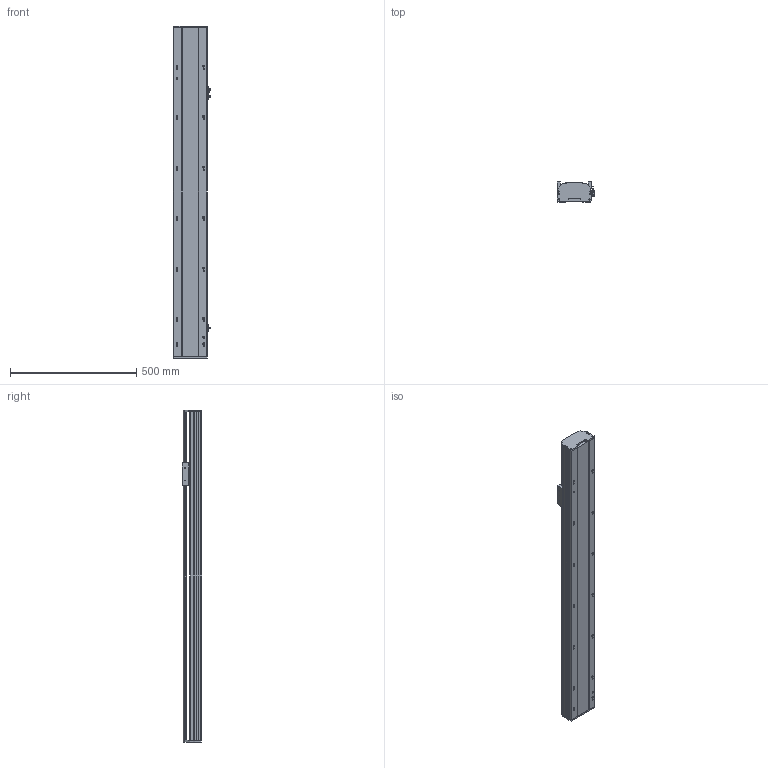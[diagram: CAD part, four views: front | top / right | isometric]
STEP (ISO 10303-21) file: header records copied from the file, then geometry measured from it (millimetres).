
FILE_DESCRIPTION (( 'STEP AP214' ), '1' );
FILE_NAME ('QTH13-950-M-P40.STEP', '2022-05-24T09:35:38', ( '' ), ( '' ), 'SwSTEP 2.0', 'SolidWorks 2020', '' );
FILE_SCHEMA (( 'AUTOMOTIVE_DESIGN' ));
Length unit declared in the file: millimetre
Products named in the file (5): QTH13-950-M-P40; 葩璃 QTH13-M-001 菁釱MZ-135-01^QTH13-M-P40; 葩璃 QTH13-BC-005 賑釱MZ-135-03^QTH13-M-P40_SFA16; 葩璃 QTH13-M-002 奻裔MZ-135-02^QTH13-M-P40; 葩璃 pm-t65-672^QTH13-M-P40
Assembly tree (6 placements, depth 2):
  QTH13-950-M-P40
    葩璃 QTH13-M-001 菁釱MZ-135-01^QTH13-M-P40
    葩璃 QTH13-M-002 奻裔MZ-135-02^QTH13-M-P40
    葩璃 QTH13-BC-005 賑釱MZ-135-03^QTH13-M-P40_SFA16
    葩璃 pm-t65-672^QTH13-M-P40  x3
Bounding box: 148.7 x 78 x 1315 mm (x, y, z)
Volume: 9069416.3 mm3; surface area: 988996.5 mm2
Topology: 10 solids, 10 shells, 843 faces, 2260 edges, 1460 vertices
Faces by surface type: plane 508, cylinder 283, cone 52
Entity records: 20140 total; most frequent: DIRECTION 3356, CARTESIAN_POINT 3230, ORIENTED_EDGE 3156, EDGE_CURVE 1578, AXIS2_PLACEMENT_3D 1162, VERTEX_POINT 1036, VECTOR 1032, LINE 1032
